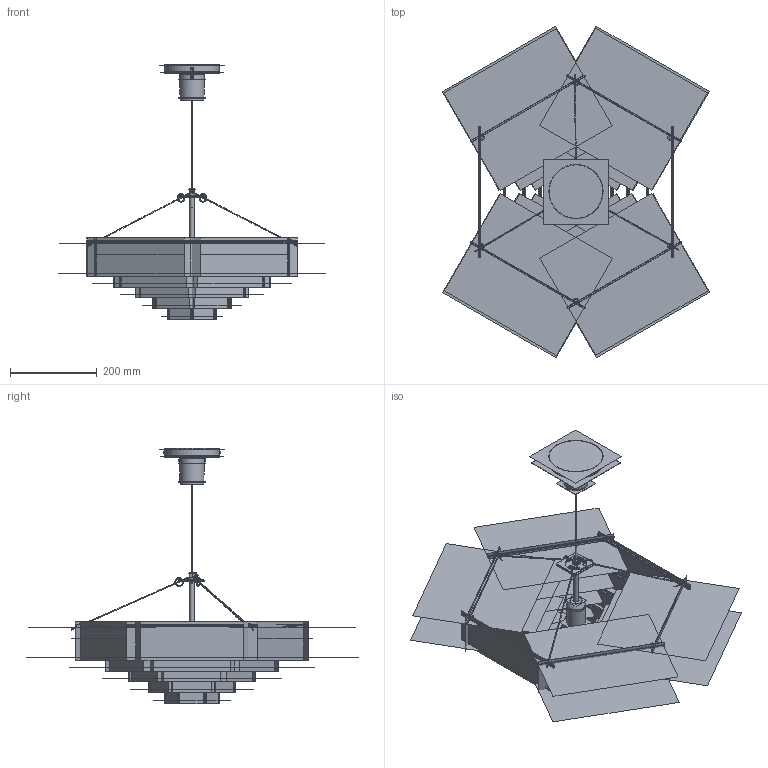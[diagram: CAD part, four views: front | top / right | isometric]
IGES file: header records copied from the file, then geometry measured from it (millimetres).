
Global section: file name: C:\Users\utente\Desktop\3d sito\ESAGONALE\esagonale S.igs; native system: Rhinoceros ( Mar  9 2011 ); preprocessor: Trout Lake IGES 012 Mar  9 2011; date: 170519.163646; units: millimetre
Bounding box: 616.44 x 764.84 x 587.89 mm (x, y, z)
Surface area: 2605238.4 mm2 (no closed solid volume)
Topology: 0 solids, 0 shells, 773 faces, 2886 edges, 2671 vertices
Faces by surface type: bspline 773
